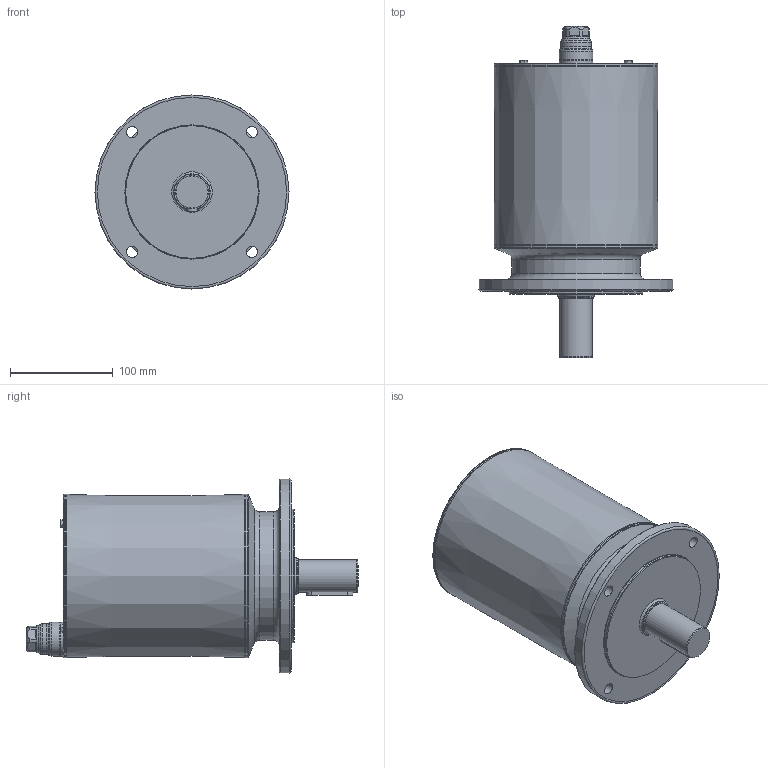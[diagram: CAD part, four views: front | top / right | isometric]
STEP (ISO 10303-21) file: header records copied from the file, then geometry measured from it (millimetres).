
FILE_DESCRIPTION((''),'2;1');
FILE_NAME('C:\Autodesk Vault\AUTODESK_VAULT\CAD\000-FERTIG Motors\EM-Motoren\EM140\_Gesamtbaugruppen\Step\HD\10.12.2012\AM8861-xx11_14.02.2013.stp','2013-02-14T10:41:09',('kathrinV'),(''),'Autodesk Inventor 2013','Autodesk Inventor 2013','');
FILE_SCHEMA(('AUTOMOTIVE_DESIGN { 1 0 10303 214 1 1 1 1 }'));
Length unit declared in the file: millimetre
Products named in the file (5): EM140-HD-VM; EM140-HD-VM-00; EM140-SB1-EKx-HD-VM; M20-HD-VM; DIN 6885-A10x8x45
Assembly tree (4 placements, depth 3):
  EM140-HD-VM
    EM140-HD-VM-00
      EM140-SB1-EKx-HD-VM
      M20-HD-VM
    DIN 6885-A10x8x45
Bounding box: 189.05 x 323.53 x 189.05 mm (x, y, z)
Volume: 4408905.3 mm3; surface area: 190585.3 mm2
Topology: 3 solids, 3 shells, 111 faces, 260 edges, 165 vertices
Faces by surface type: plane 54, cylinder 28, torus 16, cone 13
Full cylindrical faces by diameter (mm): 6 x1, 11 x4, 18.376 x1, 30 x1, 32 x1, 33 x2, 35 x1, 125 x1, 130 x1, 189 x1
Entity records: 3294 total; most frequent: CARTESIAN_POINT 782, DIRECTION 496, ORIENTED_EDGE 420, EDGE_CURVE 210, AXIS2_PLACEMENT_3D 196, EDGE_LOOP 172, VERTEX_POINT 158, FACE_OUTER_BOUND 111
